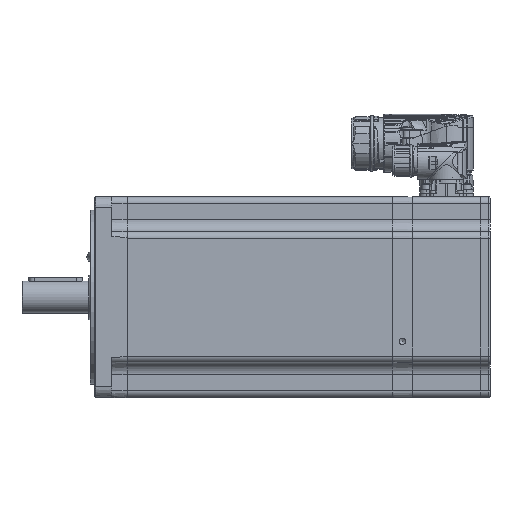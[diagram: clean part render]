
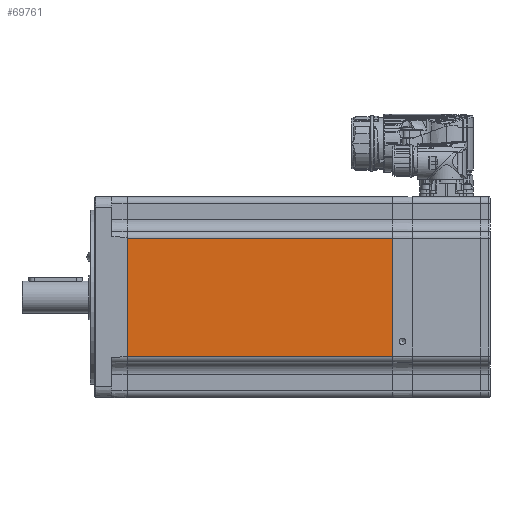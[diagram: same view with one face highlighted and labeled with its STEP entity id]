
A CAD part, left-side view. The second image highlights one B-rep face of the part: STEP entity #69761.
In plain terms, the highlighted planar face has unit normal (-1, 0, 0) as drawn and (0, -1, 0) by its records, which use the part's own axes.
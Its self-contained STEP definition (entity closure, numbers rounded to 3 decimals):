
#3120=LINE('',#106066,#5703);
#3141=LINE('',#106164,#5724);
#3144=LINE('',#106197,#5727);
#3145=LINE('',#106198,#5728);
#5703=VECTOR('',#82729,1000.);
#5724=VECTOR('',#82806,1000.);
#5727=VECTOR('',#82845,1000.);
#5728=VECTOR('',#82846,1000.);
#17298=ORIENTED_EDGE('',*,*,#27740,.F.);
#17299=ORIENTED_EDGE('',*,*,#27801,.T.);
#17300=ORIENTED_EDGE('',*,*,#27788,.T.);
#17301=ORIENTED_EDGE('',*,*,#27802,.T.);
#27740=EDGE_CURVE('',#33673,#33674,#3120,.T.);
#27788=EDGE_CURVE('',#33722,#33721,#3141,.T.);
#27801=EDGE_CURVE('',#33673,#33722,#3144,.T.);
#27802=EDGE_CURVE('',#33721,#33674,#3145,.F.);
#33673=VERTEX_POINT('',#106067);
#33674=VERTEX_POINT('',#106068);
#33721=VERTEX_POINT('',#106163);
#33722=VERTEX_POINT('',#106165);
#40126=EDGE_LOOP('',(#17298,#17299,#17300,#17301));
#44052=FACE_BOUND('',#40126,.T.);
#46456=PLANE('',#73933);
#69761=ADVANCED_FACE('',(#44052),#46456,.T.);
#73933=AXIS2_PLACEMENT_3D('',#106196,#82843,#82844);
#82729=DIRECTION('',(0.,0.,-1.));
#82806=DIRECTION('',(0.,0.,-1.));
#82843=DIRECTION('',(0.,-1.,0.));
#82844=DIRECTION('',(0.,0.,-1.));
#82845=DIRECTION('',(-1.,0.,0.));
#82846=DIRECTION('',(-1.,0.,0.));
#106066=CARTESIAN_POINT('',(-1.,-75.,75.));
#106067=CARTESIAN_POINT('',(-1.,-75.,44.));
#106068=CARTESIAN_POINT('',(-1.,-75.,-44.));
#106163=CARTESIAN_POINT('',(-199.,-75.,-44.));
#106164=CARTESIAN_POINT('',(-199.,-75.,75.));
#106165=CARTESIAN_POINT('',(-199.,-75.,44.));
#106196=CARTESIAN_POINT('',(-300.,-75.,75.));
#106197=CARTESIAN_POINT('',(-300.,-75.,44.));
#106198=CARTESIAN_POINT('',(0.,-75.,-44.));
